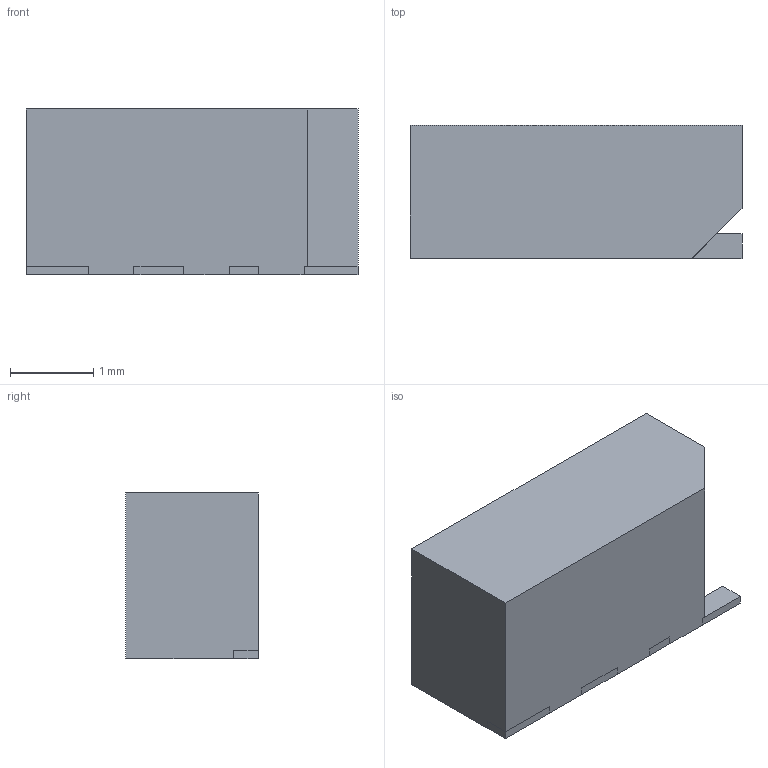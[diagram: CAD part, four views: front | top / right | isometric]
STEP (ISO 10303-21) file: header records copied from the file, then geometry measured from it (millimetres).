
FILE_DESCRIPTION(('Open CASCADE Model'),'2;1');
FILE_NAME('OPSCO_SK6812SIDE-A_led_4020','2026-09-04T00:01:43',('Author') ,('Open CASCADE'),'Open CASCADE STEP processor 7.9','build123d', 'Unknown');
FILE_SCHEMA(('AUTOMOTIVE_DESIGN { 1 0 10303 214 1 1 1 1 }'));
Length unit declared in the file: millimetre
Products named in the file (3): OPSCO_SK6812SIDE-A_led_4020; package; terminals_4x
Assembly tree (2 placements, depth 2):
  OPSCO_SK6812SIDE-A_led_4020
    package
    terminals_4x
Bounding box: 4 x 1.6 x 2 mm (x, y, z)
Volume: 12.5 mm3; surface area: 36.4 mm2
Topology: 5 solids, 5 shells, 45 faces, 105 edges, 70 vertices
Faces by surface type: plane 45
Entity records: 1297 total; most frequent: CARTESIAN_POINT 223, ORIENTED_EDGE 210, DIRECTION 201, EDGE_CURVE 105, LINE 105, VECTOR 105, VERTEX_POINT 70, AXIS2_PLACEMENT_3D 48
